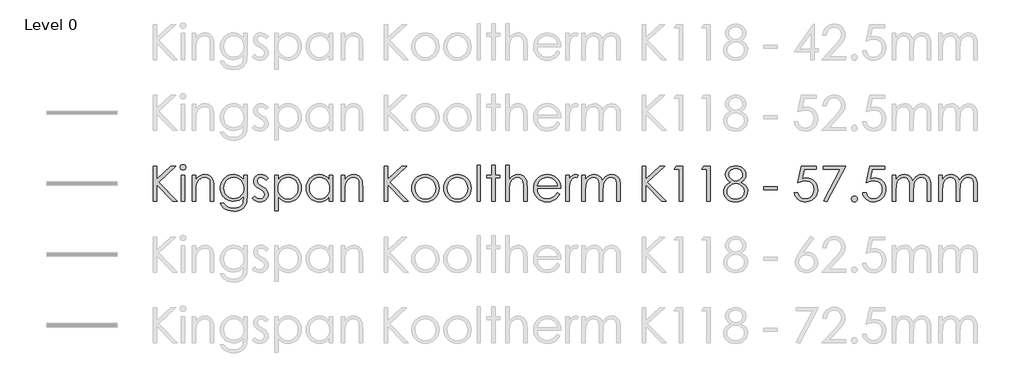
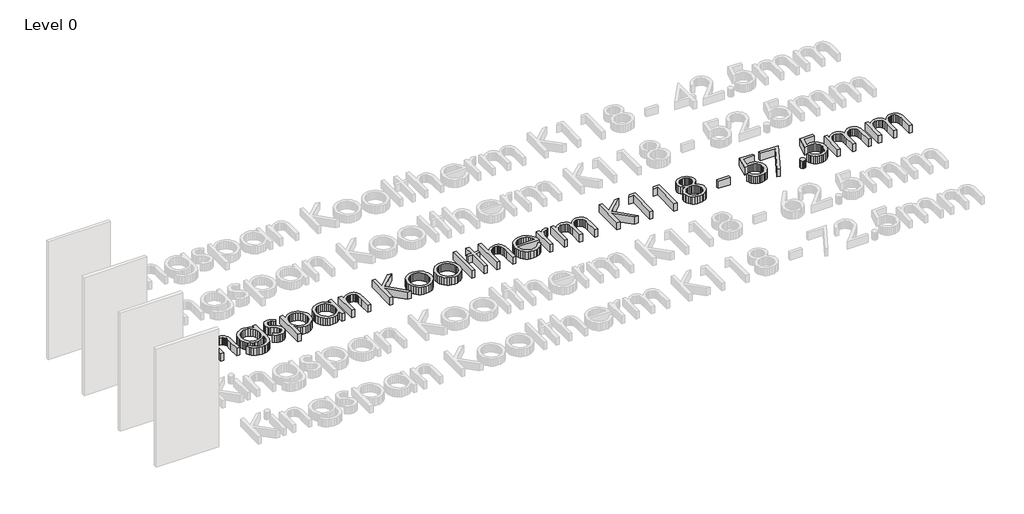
# One storey, part 5 of 8: 1 proxy.
"""IFC4 building model written with IfcOpenShell, lengths in millimetres."""

from ifc_helpers import new_model, si_unit, origin, origin_with_axes, place, context, project, spatial, polyline, outline, extrude, element, save

model = new_model("IFC4")

# Units and contexts
model_context = context("Model", 3, world=origin())
ifc_project = project(units=[si_unit("LENGTHUNIT", "METRE", prefix="MILLI")], contexts=[model_context])

# Site, building, storey
site = spatial("IfcSite", under=ifc_project)
building = spatial("IfcBuilding", under=site)
storey = spatial("IfcBuildingStorey", under=building, Name="Level 0", Elevation=0.0)

# Proxy
placement = place(None, origin())
element("IfcBuildingElementProxy", 1, Name="600mm KI_CenturyGothic", ObjectType="600mm KI_CenturyGothic", at=placement, inside=storey, context=model_context, shape_type="SweptSolid", body=[
    extrude(outline(polyline([(-3852.2663848, 2300.8965983), (-3792.944575, 2300.8965983), (-3792.944575, 2081.683973), (-3555.1938841, 2300.8965983), (-3471.6181051, 2300.8965983), (-3760.9664119, 2033.9484541), (-3441.9572002, 1707.6785001), (-3520.8984627, 1707.6785001), (-3792.944575, 1985.9039675), (-3792.944575, 1707.6785001), (-3852.2663848, 1707.6785001), (-3852.2663848, 2300.8965983)])), origin_with_axes(), (0.0, 0.0, 1.0), 150.0),
    extrude(outline(polyline([(-3348.1854852, 2330.5575033), (-3329.145347, 2327.2747208), (-3313.1176445, 2317.4263735), (-3302.226531, 2302.9821307), (-3298.5961598, 2285.911662), (-3302.226531, 2269.0729191), (-3313.1176445, 2254.7059183), (-3329.145347, 2244.857571), (-3348.1854852, 2241.5747885), (-3366.9938975, 2244.857571), (-3382.9443581, 2254.7059183), (-3393.8354717, 2269.0729191), (-3397.4658428, 2285.911662), (-3393.8354717, 2302.9821307), (-3382.9443581, 2317.4263735), (-3366.9938975, 2327.2747208), (-3348.1854852, 2330.5575033)])), origin_with_axes(), (0.0, 0.0, 1.0), 150.0),
    extrude(outline(polyline([(-3377.6919062, 2152.5920738), (-3318.3700964, 2152.5920738), (-3318.3700964, 1707.6785001), (-3377.6919062, 1707.6785001), (-3377.6919062, 2152.5920738)])), origin_with_axes(), (0.0, 0.0, 1.0), 150.0),
    extrude(outline(polyline([(-3189.8395084, 2152.5920738), (-3130.5176986, 2152.5920738), (-3130.5176986, 2073.4963274), (-3096.9946967, 2113.0055796), (-3060.0730495, 2140.696815), (-3019.7141359, 2157.0334853), (-2975.879335, 2162.4790421), (-2953.4357238, 2160.9004099), (-2932.2955704, 2156.1645135), (-2912.4588747, 2148.2713528), (-2893.9256368, 2137.2209277), (-2877.212412, 2123.4960006), (-2862.835756, 2107.5793333), (-2841.0921499, 2069.1707787), (-2833.6238199, 2044.7912914), (-2828.2892984, 2014.4448643), (-2824.0216812, 1935.8511905), (-2824.0216812, 1707.6785001), (-2883.343491, 1707.6785001), (-2883.343491, 1920.8662542), (-2883.343491, 2023.907002), (-2884.7290183, 2044.7043943), (-2889.8125035, 2062.7596977), (-2898.2849788, 2078.0729123), (-2910.1464442, 2090.644038), (-2924.7403432, 2100.4441091), (-2941.4101193, 2107.4441599), (-2980.977303, 2113.0442006), (-3005.3471351, 2110.8862539), (-3028.4038541, 2104.4124138), (-3050.1474602, 2093.6226803), (-3070.5779533, 2078.5170534), (-3088.6622225, 2060.2348518), (-3103.3671568, 2039.915394), (-3114.6927562, 2017.55868), (-3122.6390208, 1993.1647099), (-3128.5480292, 1946.0857475), (-3130.5176986, 1871.5858965), (-3130.5176986, 1707.6785001), (-3189.8395084, 1707.6785001), (-3189.8395084, 2152.5920738)])), origin_with_axes(), (0.0, 0.0, 1.0), 150.0),
    extrude(outline(polyline([(-2319.7862977, 2152.5920738), (-2260.4644879, 2152.5920738), (-2260.4644879, 1801.604699), (-2264.5196897, 1721.3503235), (-2269.588692, 1690.5500999), (-2276.6852953, 1665.9678526), (-2289.9371156, 1637.3545415), (-2307.2924139, 1612.2267729), (-2328.7511904, 1590.5845469), (-2354.3134448, 1572.4278634), (-2383.3226209, 1558.0656902), (-2415.122162, 1547.8069951), (-2449.7120682, 1541.651778), (-2487.0923395, 1539.6000389), (-2541.0458345, 1543.6166198), (-2589.206184, 1555.6663624), (-2630.260275, 1574.4940853), (-2662.8949946, 1598.8446068), (-2690.2000204, 1632.1938144), (-2715.2650299, 1678.0175952), (-2655.94322, 1678.0175952), (-2642.4355358, 1656.848476), (-2627.0933555, 1638.6048954), (-2609.9166791, 1623.2868532), (-2590.9055067, 1610.8943494), (-2569.7894914, 1601.3308318), (-2546.2982864, 1594.4997477), (-2492.1903075, 1589.0348805), (-2438.5071593, 1594.3645743), (-2415.083541, 1601.0266916), (-2393.93856, 1610.3536559), (-2359.6624492, 1634.3952097), (-2336.8567664, 1663.8823202), (-2329.3884364, 1682.5217658), (-2324.0539149, 1706.2302137), (-2319.7862977, 1768.8541165), (-2319.7862977, 1791.5632468), (-2354.757586, 1755.7809182), (-2396.6420279, 1729.3834852), (-2443.392712, 1713.1047464), (-2492.9627269, 1707.6785001), (-2522.4063889, 1709.5757553), (-2550.9521133, 1715.2675207), (-2578.5999001, 1724.7537964), (-2605.3497494, 1738.0345825), (-2630.1540674, 1754.5257366), (-2651.9652601, 1773.6431168), (-2670.7833277, 1795.3867228), (-2686.6082702, 1819.7565549), (-2699.1456025, 1846.0719183), (-2708.1008399, 1873.6521184), (-2713.4739824, 1902.4971553), (-2715.2650299, 1932.607029), (-2713.3967404, 1962.8955247), (-2707.7918722, 1992.1219437), (-2698.4504251, 2020.286286), (-2685.3723991, 2047.3885517), (-2668.9971079, 2072.5742517), (-2649.7638648, 2094.9888971), (-2627.67267, 2114.632488), (-2602.7235235, 2131.5050242), (-2575.9833294, 2145.056157), (-2548.5189922, 2154.7355376), (-2520.3305117, 2160.543166), (-2491.4178881, 2162.4790421), (-2444.5320306, 2157.5355579), (-2400.8903346, 2142.7051055), (-2359.6045177, 2116.1338782), (-2319.7862977, 2075.9680694), (-2319.7862977, 2152.5920738)]), holes=[polyline([(-2484.1571458, 2113.0442006), (-2529.0154023, 2107.0193293), (-2570.5908765, 2088.9447153), (-2606.2187212, 2060.2300242), (-2633.2340897, 2022.2849212), (-2650.2659375, 1978.0059792), (-2655.94322, 1930.2897708), (-2653.0080263, 1894.3770964), (-2644.2024452, 1861.7182387), (-2629.5264766, 1832.3131977), (-2608.9801206, 1806.1619734), (-2583.7606272, 1784.703197), (-2555.0652466, 1769.3754996), (-2522.8939786, 1760.1788811), (-2487.2468234, 1757.1133416), (-2451.3244937, 1760.154743), (-2419.1001219, 1769.2789472), (-2390.573708, 1784.4859541), (-2365.7452519, 1805.7757637), (-2345.6382095, 1832.0187128), (-2331.2760363, 1862.0851379), (-2322.6587323, 1895.975039), (-2319.7862977, 1933.6884162), (-2325.0773706, 1982.3894593), (-2340.9505892, 2025.6063246), (-2366.4983608, 2061.8327944), (-2400.8130926, 2089.5626508), (-2440.9982119, 2107.1738131), (-2484.1571458, 2113.0442006)])]), origin_with_axes(), (0.0, 0.0, 1.0), 150.0),
    extrude(outline(polyline([(-1904.5336289, 2101.3034257), (-1940.9918246, 2063.609359), (-1962.9575012, 2085.2371022), (-1984.6721416, 2100.6854902), (-2006.1357456, 2109.954523), (-2027.3483133, 2113.0442006), (-2052.181597, 2108.3710632), (-2073.2300256, 2094.3516511), (-2087.5970264, 2074.1142629), (-2092.3860267, 2050.787197), (-2088.4466878, 2029.2366958), (-2076.628671, 2008.7675817), (-2052.0657341, 1986.599145), (-2010.2006027, 1960.877579), (-1958.3326401, 1928.0111336), (-1939.8428507, 1912.1861912), (-1926.315856, 1896.7667689), (-1909.9791857, 1864.0934284), (-1904.5336289, 1827.5579908), (-1906.9474396, 1801.4115941), (-1914.1888714, 1777.3507299), (-1926.2579245, 1755.375398), (-1943.1545989, 1735.4855985), (-1963.6719892, 1718.9944443), (-1986.6031901, 1707.2150485), (-2011.9482016, 1700.147411), (-2039.7070237, 1697.7915318), (-2077.4397114, 1701.6729393), (-2113.3958344, 1713.3171617), (-2145.4512394, 1731.7972958), (-2171.4817731, 1756.1864383), (-2135.7959969, 1796.6612148), (-2114.0041146, 1775.0334717), (-2091.5749863, 1759.5850837), (-2068.5086121, 1750.3160509), (-2044.8049918, 1747.2263733), (-2013.637869, 1752.8650349), (-1987.4914724, 1769.7810198), (-1969.7644472, 1794.3439566), (-1963.8554388, 1822.9234744), (-1967.7561567, 1846.7139919), (-1979.4583106, 1867.7237995), (-2005.0253927, 1889.4287846), (-2050.2119275, 1916.2317378), (-2099.762632, 1946.8967879), (-2117.441381, 1962.0555186), (-2130.3890611, 1977.0983864), (-2146.3781427, 2009.2310334), (-2151.7078365, 2045.689229), (-2149.5305794, 2069.7356104), (-2142.9988078, 2091.6674937), (-2132.1125219, 2111.4848789), (-2116.8717217, 2129.187766), (-2098.309518, 2143.7526993), (-2077.4590218, 2154.1562231), (-2054.3202332, 2160.3983373), (-2028.8931521, 2162.4790421), (-1997.9481, 2158.6555661), (-1966.9064954, 2147.185138), (-1935.7683384, 2128.0677579), (-1904.5336289, 2101.3034257)])), origin_with_axes(), (0.0, 0.0, 1.0), 150.0),
    extrude(outline(polyline([(-1795.7769776, 2152.5920738), (-1736.4551678, 2152.5920738), (-1736.4551678, 2071.4880369), (-1700.9238754, 2111.7310876), (-1660.4490989, 2140.0788795), (-1614.9922173, 2156.8790014), (-1564.5146096, 2162.4790421), (-1520.0618732, 2158.2403906), (-1478.9305402, 2145.5244363), (-1441.1206107, 2124.331179), (-1406.6320845, 2094.6606189), (-1377.9077381, 2059.0231189), (-1357.3903478, 2019.929042), (-1345.0799137, 1977.3783884), (-1340.9764356, 1931.371158), (-1345.0412927, 1884.4708176), (-1357.235864, 1841.2491246), (-1377.5601494, 1801.706079), (-1406.014149, 1765.8416808), (-1440.2130179, 1736.0697406), (-1477.7719111, 1714.8040691), (-1518.6908288, 1702.0446661), (-1562.9697708, 1697.7915318), (-1612.6170277, 1703.256399), (-1658.0545988, 1719.6510008), (-1699.3211052, 1746.8980951), (-1736.4551678, 1784.92044), (-1736.4551678, 1549.4870072), (-1795.7769776, 1549.4870072), (-1795.7769776, 2152.5920738)]), holes=[polyline([(-1568.5311905, 2113.0442006), (-1602.5852307, 2109.7469353), (-1633.8392507, 2099.8551393), (-1662.2932503, 2083.3688128), (-1687.9472295, 2060.2879556), (-1709.1694525, 2032.3022353), (-1724.3281832, 2001.1013192), (-1733.4234216, 1966.6852074), (-1736.4551678, 1929.0538998), (-1731.048232, 1880.1983728), (-1714.8274246, 1836.5180558), (-1688.5265441, 1799.6736505), (-1652.8793888, 1771.3258586), (-1611.4390881, 1753.2512446), (-1567.7587711, 1747.2263733), (-1525.0632888, 1753.2898656), (-1485.0326535, 1771.4803424), (-1450.2544701, 1800.5812433), (-1423.3163435, 1839.3760076), (-1406.05277, 1884.0411593), (-1400.2982454, 1930.7532225), (-1405.9948385, 1977.6970114), (-1423.0846177, 2022.1304373), (-1449.8103289, 2060.4810605), (-1484.414718, 2089.1764411), (-1524.7157001, 2107.0772607), (-1568.5311905, 2113.0442006)])]), origin_with_axes(), (0.0, 0.0, 1.0), 150.0),
    extrude(outline(polyline([(-807.0801472, 2152.5920738), (-807.0801472, 1707.6785001), (-866.401957, 1707.6785001), (-866.401957, 1783.5300851), (-903.4780882, 1745.6815345), (-944.8797679, 1718.9558233), (-990.4525125, 1703.0826047), (-1040.0418379, 1697.7915318), (-1084.3159523, 1702.0446661), (-1125.2203871, 1714.8040691), (-1162.7551422, 1736.0697406), (-1196.9202178, 1765.8416808), (-1225.340424, 1801.706079), (-1245.6405713, 1841.2491246), (-1257.8206597, 1884.4708176), (-1261.8806892, 1931.371158), (-1257.7820388, 1977.3783884), (-1245.4860875, 2019.929042), (-1224.9928353, 2059.0231189), (-1196.3022822, 2094.6606189), (-1161.8475494, 2124.331179), (-1124.061758, 2145.5244363), (-1082.9449079, 2158.2403906), (-1038.4969991, 2162.4790421), (-987.7490446, 2156.8790014), (-942.0990581, 2140.0788795), (-921.2051134, 2127.3918909), (-901.6242816, 2111.7310876), (-866.401957, 2071.4880369), (-866.401957, 2152.5920738), (-807.0801472, 2152.5920738)]), holes=[polyline([(-1034.3259343, 2113.0442006), (-1078.1414247, 2107.0772607), (-1118.4424068, 2089.1764411), (-1153.0467959, 2060.4810605), (-1179.7725071, 2022.1304373), (-1196.8622863, 1977.6970114), (-1202.5588794, 1930.7532225), (-1196.8043548, 1884.0411593), (-1179.5407813, 1839.3760076), (-1152.6026548, 1800.5812433), (-1117.8244713, 1771.4803424), (-1077.6779731, 1753.2898656), (-1034.6349021, 1747.2263733), (-991.0125165, 1753.2512446), (-949.7460102, 1771.3258586), (-914.2726493, 1799.6736505), (-888.0297002, 1836.5180558), (-871.8088928, 1880.1983728), (-866.401957, 1929.0538998), (-869.4337032, 1966.6852074), (-878.5289416, 2001.1013192), (-893.6876723, 2032.3022353), (-914.9098953, 2060.2879556), (-940.5638746, 2083.3688128), (-969.0178742, 2099.8551393), (-1000.2718941, 2109.7469353), (-1034.3259343, 2113.0442006)])]), origin_with_axes(), (0.0, 0.0, 1.0), 150.0),
    extrude(outline(polyline([(-668.662591, 2152.5920738), (-609.3407811, 2152.5920738), (-609.3407811, 2073.4963274), (-575.8177792, 2113.0055796), (-538.896132, 2140.696815), (-498.5372184, 2157.0334853), (-454.7024175, 2162.4790421), (-432.2588064, 2160.9004099), (-411.1186529, 2156.1645135), (-391.2819572, 2148.2713528), (-372.7487193, 2137.2209277), (-356.0354946, 2123.4960006), (-341.6588385, 2107.5793333), (-319.9152324, 2069.1707787), (-312.4469024, 2044.7912914), (-307.1123809, 2014.4448643), (-302.8447637, 1935.8511905), (-302.8447637, 1707.6785001), (-362.1665735, 1707.6785001), (-362.1665735, 1920.8662542), (-362.1665735, 2023.907002), (-363.5521008, 2044.7043943), (-368.635586, 2062.7596977), (-377.1080613, 2078.0729123), (-388.9695267, 2090.644038), (-403.5634257, 2100.4441091), (-420.2332018, 2107.4441599), (-459.8003855, 2113.0442006), (-484.1702176, 2110.8862539), (-507.2269366, 2104.4124138), (-528.9705427, 2093.6226803), (-549.4010358, 2078.5170534), (-567.485305, 2060.2348518), (-582.1902393, 2039.915394), (-593.5158387, 2017.55868), (-601.4621033, 1993.1647099), (-607.3711117, 1946.0857475), (-609.3407811, 1871.5858965), (-609.3407811, 1707.6785001), (-668.662591, 1707.6785001), (-668.662591, 2152.5920738)])), origin_with_axes(), (0.0, 0.0, 1.0), 150.0),
    extrude(outline(polyline([(62.9730635, 2300.8965983), (122.2948734, 2300.8965983), (122.2948734, 2081.683973), (360.0455643, 2300.8965983), (443.6213432, 2300.8965983), (154.2730365, 2033.9484541), (473.2822481, 1707.6785001), (394.3409856, 1707.6785001), (122.2948734, 1985.9039675), (122.2948734, 1707.6785001), (62.9730635, 1707.6785001), (62.9730635, 2300.8965983)])), origin_with_axes(), (0.0, 0.0, 1.0), 150.0),
    extrude(outline(polyline([(760.1588128, 2162.4790421), (809.4681362, 2157.8541809), (854.3553585, 2143.9795975), (894.8204798, 2120.8552917), (930.8635, 2088.4812637), (957.7630055, 2053.2492839), (976.9769381, 2014.908316), (988.5052976, 1973.45836), (992.3480841, 1928.8994159), (988.283227, 1884.0846079), (976.0886558, 1842.1760279), (955.7643703, 1803.1736759), (927.3103707, 1767.0775519), (892.4742558, 1736.7649181), (853.0036246, 1715.1130368), (808.8984769, 1702.1219081), (760.1588128, 1697.7915318), (711.2839754, 1702.1219081), (667.0822753, 1715.1130368), (627.5537126, 1736.7649181), (592.6982872, 1767.0775519), (564.2442876, 1803.1736759), (543.9200022, 1842.1760279), (531.7254309, 1884.0846079), (527.6605738, 1928.8994159), (531.5033603, 1973.2652551), (543.0317198, 2014.5993482), (562.2456524, 2052.9016951), (589.145158, 2088.1722959), (625.2074886, 2120.6814974), (665.7305413, 2143.9023555), (710.7143161, 2157.8348705), (760.1588128, 2162.4790421)]), holes=[polyline([(760.004329, 2113.0442006), (725.7282181, 2109.6696933), (693.9624704, 2099.5461716), (664.7070856, 2082.6736353), (637.962064, 2059.0520846), (615.6584538, 2030.6415336), (599.7273037, 1999.4019965), (590.1686137, 1965.3334734), (586.9823836, 1928.4359643), (592.7948396, 1880.7004454), (610.2322075, 1836.3635719), (637.5758543, 1798.5729529), (673.1071466, 1770.4761972), (714.6439998, 1753.0388293), (760.004329, 1747.2263733), (805.3646581, 1753.0388293), (846.9015113, 1770.4761972), (882.4328037, 1798.5729529), (909.7764504, 1836.3635719), (927.2138183, 1880.7004454), (933.0262743, 1928.4359643), (929.8255614, 1965.3334734), (920.2234227, 1999.4019965), (904.2198583, 2030.6415336), (881.8148681, 2059.0520846), (854.9974321, 2082.6736353), (825.7565303, 2099.5461716), (794.0921625, 2109.6696933), (760.004329, 2113.0442006)])]), origin_with_axes(), (0.0, 0.0, 1.0), 150.0),
    extrude(outline(polyline([(1303.9420695, 2162.4790421), (1353.2513929, 2157.8541809), (1398.1386152, 2143.9795975), (1438.6037365, 2120.8552917), (1474.6467567, 2088.4812637), (1501.5462622, 2053.2492839), (1520.7601948, 2014.908316), (1532.2885543, 1973.45836), (1536.1313408, 1928.8994159), (1532.0664837, 1884.0846079), (1519.8719125, 1842.1760279), (1499.547627, 1803.1736759), (1471.0936274, 1767.0775519), (1436.2575126, 1736.7649181), (1396.7868813, 1715.1130368), (1352.6817336, 1702.1219081), (1303.9420695, 1697.7915318), (1255.0672321, 1702.1219081), (1210.865532, 1715.1130368), (1171.3369693, 1736.7649181), (1136.4815439, 1767.0775519), (1108.0275443, 1803.1736759), (1087.7032589, 1842.1760279), (1075.5086876, 1884.0846079), (1071.4438305, 1928.8994159), (1075.286617, 1973.2652551), (1086.8149766, 2014.5993482), (1106.0289091, 2052.9016951), (1132.9284147, 2088.1722959), (1168.9907453, 2120.6814974), (1209.5137981, 2143.9023555), (1254.4975728, 2157.8348705), (1303.9420695, 2162.4790421)]), holes=[polyline([(1303.7875857, 2113.0442006), (1269.5114748, 2109.6696933), (1237.7457271, 2099.5461716), (1208.4903423, 2082.6736353), (1181.7453207, 2059.0520846), (1159.4417105, 2030.6415336), (1143.5105604, 1999.4019965), (1133.9518704, 1965.3334734), (1130.7656404, 1928.4359643), (1136.5780963, 1880.7004454), (1154.0154643, 1836.3635719), (1181.359111, 1798.5729529), (1216.8904033, 1770.4761972), (1258.4272565, 1753.0388293), (1303.7875857, 1747.2263733), (1349.1479149, 1753.0388293), (1390.684768, 1770.4761972), (1426.2160604, 1798.5729529), (1453.5597071, 1836.3635719), (1470.997075, 1880.7004454), (1476.809531, 1928.4359643), (1473.6088181, 1965.3334734), (1464.0066795, 1999.4019965), (1448.003115, 2030.6415336), (1425.5981249, 2059.0520846), (1398.7806889, 2082.6736353), (1369.539787, 2099.5461716), (1337.8754193, 2109.6696933), (1303.7875857, 2113.0442006)])]), origin_with_axes(), (0.0, 0.0, 1.0), 150.0),
    extrude(outline(polyline([(1635.0010238, 2320.6705349), (1694.3228337, 2320.6705349), (1694.3228337, 1707.6785001), (1635.0010238, 1707.6785001), (1635.0010238, 2320.6705349)])), origin_with_axes(), (0.0, 0.0, 1.0), 150.0),
    extrude(outline(polyline([(1882.1752314, 2320.6705349), (1941.4970413, 2320.6705349), (1941.4970413, 2152.5920738), (2020.5927877, 2152.5920738), (2020.5927877, 2103.1572323), (1941.4970413, 2103.1572323), (1941.4970413, 1707.6785001), (1882.1752314, 1707.6785001), (1882.1752314, 2103.1572323), (1803.079485, 2103.1572323), (1803.079485, 2152.5920738), (1882.1752314, 2152.5920738), (1882.1752314, 2320.6705349)])), origin_with_axes(), (0.0, 0.0, 1.0), 150.0),
    extrude(outline(polyline([(2119.4624707, 2320.6705349), (2178.7842806, 2320.6705349), (2178.7842806, 2071.9514886), (2212.5583188, 2111.6538456), (2249.6151394, 2139.9243956), (2289.9161216, 2156.8403805), (2333.4226442, 2162.4790421), (2355.8662553, 2160.9004099), (2377.0064088, 2156.1645135), (2396.8431044, 2148.2713528), (2415.3763424, 2137.2209277), (2432.0895671, 2123.5104834), (2446.4662232, 2107.6372648), (2468.2098293, 2069.4025045), (2475.6781593, 2045.0954316), (2481.0126808, 2014.7345216), (2485.280298, 1935.8511905), (2485.280298, 1707.6785001), (2425.9584882, 1707.6785001), (2425.9584882, 1920.8662542), (2424.5681332, 1985.247411), (2420.3970685, 2023.907002), (2406.879729, 2062.7596977), (2397.1665551, 2078.0729123), (2385.4837117, 2090.644038), (2371.840854, 2100.4441091), (2356.2476374, 2107.4441599), (2319.2101273, 2113.0442006), (2296.3416854, 2110.8862539), (2274.6994594, 2104.4124138), (2254.2834492, 2093.6226803), (2235.0936547, 2078.5170534), (2218.1052556, 2060.2348518), (2204.2934312, 2039.915394), (2193.6581816, 2017.55868), (2186.1995068, 1993.1647099), (2180.6380871, 1946.3174733), (2178.7842806, 1871.5858965), (2178.7842806, 1707.6785001), (2119.4624707, 1707.6785001), (2119.4624707, 2320.6705349)])), origin_with_axes(), (0.0, 0.0, 1.0), 150.0),
    extrude(outline(polyline([(2991.0605203, 1855.9830247), (3038.950523, 1830.8021523), (3013.3255094, 1788.9177104), (2984.0315038, 1755.9547125), (2950.952643, 1730.8703926), (2913.9730643, 1712.6219843), (2872.4941426, 1701.4991449), (2825.9172528, 1697.7915318), (2774.4258447, 1702.2232881), (2728.8627554, 1715.518557), (2689.227985, 1737.6773385), (2655.5215335, 1768.6996326), (2628.6220279, 1805.3026569), (2609.4080954, 1844.2036288), (2597.8797358, 1885.4025485), (2594.0369493, 1928.8994159), (2597.3197318, 1969.7797126), (2607.1680791, 2008.381372), (2623.5819913, 2044.7043943), (2646.5614684, 2078.7487793), (2682.7493173, 2115.3807692), (2724.5758277, 2141.5464764), (2772.0409998, 2157.2459007), (2825.1448334, 2162.4790421), (2879.7935059, 2157.1107273), (2928.6490329, 2141.0057828), (2971.7114143, 2114.1642087), (3008.9806503, 2076.5860049), (3030.4539096, 2044.414737), (3045.9022976, 2008.458614), (3055.3258143, 1968.7176359), (3058.7244596, 1925.1918028), (2653.3587591, 1925.1918028), (2657.095338, 1887.9370497), (2666.6057518, 1854.1871496), (2681.8900007, 1823.9421025), (2702.9480845, 1797.2019084), (2728.3124066, 1775.3376118), (2756.5153699, 1759.7202571), (2787.5569744, 1750.3498443), (2821.4372203, 1747.2263733), (2854.9602222, 1750.238809), (2887.5563208, 1759.2761159), (2917.2944677, 1773.3148385), (2942.2436143, 1791.331521), (2965.725164, 1817.4972281), (2991.0605203, 1855.9830247)]), holes=[polyline([(2999.4026498, 1974.6266443), (2984.9777175, 2017.1483322), (2965.1844704, 2050.1692615), (2939.0766947, 2075.6977226), (2905.7081767, 2095.742006), (2867.7630738, 2108.7186519), (2827.9255433, 2113.0442006), (2795.503239, 2110.3310774), (2765.4368139, 2102.191708), (2737.726268, 2088.6260923), (2712.3716012, 2069.6342304), (2695.8321708, 2051.820308), (2681.4362043, 2030.0477362), (2669.1837016, 2004.316515), (2659.0746627, 1974.6266443), (2999.4026498, 1974.6266443)])]), origin_with_axes(), (0.0, 0.0, 1.0), 150.0),
    extrude(outline(polyline([(3137.820206, 2152.5920738), (3197.1420159, 2152.5920738), (3197.1420159, 2088.1722959), (3222.6897875, 2121.2125357), (3249.589293, 2144.3271862), (3277.7632906, 2157.9410781), (3307.1345382, 2162.4790421), (3330.4616041, 2158.694187), (3355.3335087, 2147.3396219), (3325.8270877, 2105.3200066), (3297.2475699, 2113.0442006), (3270.8308265, 2107.0965712), (3245.3409863, 2089.2536831), (3223.2884125, 2058.8976007), (3207.183468, 2015.4103886), (3199.6523789, 1957.2858288), (3197.1420159, 1859.8451217), (3197.1420159, 1707.6785001), (3137.820206, 1707.6785001), (3137.820206, 2152.5920738)])), origin_with_axes(), (0.0, 0.0, 1.0), 150.0),
    extrude(outline(polyline([(3414.6553185, 2152.5920738), (3473.9771284, 2152.5920738), (3473.9771284, 2076.4315211), (3503.5607913, 2112.9283377), (3533.9168737, 2138.0705891), (3577.3268439, 2156.3769288), (3622.8995884, 2162.4790421), (3653.7384329, 2159.331433), (3682.9165757, 2149.8886059), (3708.6767627, 2135.2126373), (3729.2617397, 2116.365604), (3746.0425511, 2090.9336953), (3760.3902414, 2056.5031006), (3775.16759, 2080.9018983), (3791.6925376, 2102.191708), (3809.965084, 2120.3725296), (3829.9852293, 2135.4443631), (3851.2798666, 2147.2720352), (3873.375889, 2155.7203723), (3896.2732965, 2160.7893747), (3919.9720892, 2162.4790421), (3962.3006723, 2156.6665861), (3981.4952943, 2149.4010161), (3999.3768034, 2139.2292182), (4015.4914031, 2126.46016), (4029.385297, 2111.4028093), (4050.5109676, 2074.4232306), (4057.8103309, 2051.0478886), (4063.0241619, 2022.4780261), (4067.1952266, 1949.7547397), (4067.1952266, 1707.6785001), (4007.8734168, 1707.6785001), (4007.8734168, 1953.3078689), (4005.4209852, 2014.4255538), (3998.0636904, 2052.8727294), (3984.7587663, 2077.3391139), (3964.4634466, 2096.5144254), (3938.3942919, 2108.9117568), (3907.7678627, 2113.0442006), (3888.1194443, 2111.4945341), (3869.3399976, 2106.8455349), (3834.3880198, 2088.2495379), (3805.6540182, 2059.3031209), (3785.8800816, 2022.0531954), (3779.1889985, 1997.8957787), (3774.4096535, 1966.8252084), (3770.5861775, 1883.9446069), (3770.5861775, 1707.6785001), (3711.2643677, 1707.6785001), (3711.2643677, 1938.0139648), (3708.850557, 2006.469634), (3701.6091252, 2048.7016647), (3688.3621325, 2074.9446137), (3667.9316394, 2095.4330383), (3641.6114484, 2108.64141), (3610.6953619, 2113.0442006), (3573.7544042, 2107.0000188), (3539.2465676, 2088.8674734), (3510.2808401, 2060.500371), (3489.9662099, 2023.7525181), (3477.9743988, 1971.9231764), (3473.9771284, 1898.3116077), (3473.9771284, 1707.6785001), (3414.6553185, 1707.6785001), (3414.6553185, 2152.5920738)])), origin_with_axes(), (0.0, 0.0, 1.0), 150.0),
    extrude(outline(polyline([(4433.0130538, 2300.8965983), (4492.3348637, 2300.8965983), (4492.3348637, 2081.683973), (4730.0855546, 2300.8965983), (4813.6613335, 2300.8965983), (4524.3130268, 2033.9484541), (4843.3222385, 1707.6785001), (4764.3809759, 1707.6785001), (4492.3348637, 1985.9039675), (4492.3348637, 1707.6785001), (4433.0130538, 1707.6785001), (4433.0130538, 2300.8965983)])), origin_with_axes(), (0.0, 0.0, 1.0), 150.0),
    extrude(outline(polyline([(5010.6282802, 2300.8965983), (5125.1008351, 2300.8965983), (5125.1008351, 1707.6785001), (5065.7790253, 1707.6785001), (5065.7790253, 2251.4617568), (4976.7963106, 2251.4617568), (5010.6282802, 2300.8965983)])), origin_with_axes(), (0.0, 0.0, 1.0), 150.0),
    extrude(outline(polyline([(5475.3157905, 2300.8965983), (5589.7883454, 2300.8965983), (5589.7883454, 1707.6785001), (5530.4665356, 1707.6785001), (5530.4665356, 2251.4617568), (5441.4838208, 2251.4617568), (5475.3157905, 2300.8965983)])), origin_with_axes(), (0.0, 0.0, 1.0), 150.0),
    extrude(outline(polyline([(6107.7727942, 2031.7856798), (6159.8724826, 2000.3868313), (6179.6946955, 1983.1522234), (6195.365154, 1964.8941599), (6207.2604128, 1945.4774673), (6215.7570261, 1924.7669721), (6220.8549942, 1902.7626745), (6222.5543169, 1879.4645744), (6219.734986, 1846.7815786), (6211.2769936, 1816.0875627), (6197.1803396, 1787.3825268), (6177.445024, 1760.6664709), (6146.7510081, 1733.158685), (6110.1286734, 1713.5102666), (6067.5780197, 1701.7212155), (6019.0990472, 1697.7915318), (5972.4352603, 1701.243281), (5931.7770342, 1711.5985286), (5897.1243689, 1728.8572745), (5868.4772645, 1753.0195188), (5846.0384809, 1781.3335174), (5830.0107784, 1811.0475261), (5820.3941569, 1842.161545), (5817.1886164, 1874.6755741), (5818.9024219, 1898.4033325), (5824.0438386, 1920.9241856), (5832.6128663, 1942.2381334), (5844.609505, 1962.3451759), (5860.5068618, 1981.3128997), (5880.7780434, 1999.2088917), (5905.4230498, 2016.0331517), (5934.4418811, 2031.7856798), (5896.0719475, 2056.7348264), (5868.7089903, 2087.0909088), (5852.3143886, 2121.3477091), (5846.8495213, 2157.9990096), (5852.6426668, 2195.7123867), (5870.0221033, 2232.5374816), (5897.6360968, 2265.0563382), (5934.1329134, 2289.8510009), (5976.7318432, 2305.5504252), (6022.6521765, 2310.7835666), (6067.3945701, 2305.5118042), (6108.6224555, 2289.6965171), (6143.8254696, 2264.8246124), (6170.4932494, 2232.3829977), (6187.2933713, 2195.2489351), (6192.8934119, 2156.2996869), (6187.5830286, 2118.7601041), (6171.6518785, 2085.54607), (6145.0613407, 2056.5803425), (6107.7727942, 2031.7856798)]), holes=[polyline([(6022.9611442, 2004.2875492), (5993.0926516, 2001.7771862), (5965.7441773, 1994.246097), (5940.9157212, 1981.6942818), (5918.6072834, 1964.1217405), (5900.1899084, 1943.2181405), (5887.0346405, 1920.6731493), (5879.1414798, 1896.4867669), (5876.5104262, 1870.6589932), (5881.0097692, 1838.5456567), (5894.5077982, 1808.3247478), (5916.0776099, 1782.3907665), (5944.7923011, 1763.1382129), (5979.6670369, 1751.2043332), (6019.7169827, 1747.2263733), (6050.9372093, 1749.6450116), (6078.7877563, 1756.9009263), (6103.2686236, 1768.9941175), (6124.3798113, 1785.9245852), (6141.3778657, 1806.0895591), (6153.5193331, 1827.886269), (6160.8042135, 1851.3147149), (6163.232507, 1876.3748968), (6160.6642125, 1900.7061079), (6152.959329, 1923.646964), (6140.1178565, 1945.1974652), (6122.139795, 1965.3576115), (6100.5313623, 1982.3894593), (6076.7987763, 1994.5550648), (6050.9420369, 2001.8544281), (6022.9611442, 2004.2875492)]), polyline([(6019.7169827, 2261.3487251), (5996.2112949, 2259.4900909), (5974.8201052, 2253.9141884), (5955.5434136, 2244.6210175), (5938.3812201, 2231.6105783), (5924.2893937, 2216.0221893), (5914.2238034, 2198.9951692), (5908.1844492, 2180.5295179), (5906.1713311, 2160.6252355), (5908.3389331, 2140.7161255), (5914.8417389, 2121.7725398), (5925.6797486, 2103.7944783), (5940.8529621, 2086.781941), (5958.9130932, 2072.3183878), (5978.4118554, 2061.9872783), (5999.3492487, 2055.7886126), (6021.7252732, 2053.7223907), (6050.4399643, 2057.4686248), (6077.5711957, 2068.7073271), (6101.0334349, 2086.4536628), (6118.7411497, 2109.7227972), (6129.863989, 2135.7726414), (6133.5716021, 2161.8611066), (6131.7467613, 2180.0322729), (6126.2722388, 2197.4696408), (6117.1480347, 2214.1732103), (6104.3741488, 2230.1429814), (6088.134031, 2243.7954943), (6068.6111307, 2253.5472892), (6045.8054479, 2259.3983661), (6019.7169827, 2261.3487251)])]), origin_with_axes(), (0.0, 0.0, 1.0), 150.0),
    extrude(outline(polyline([(6499.3894294, 1954.8527077), (6726.7897004, 1954.8527077), (6726.7897004, 1905.4178662), (6499.3894294, 1905.4178662), (6499.3894294, 1954.8527077)])), origin_with_axes(), (0.0, 0.0, 1.0), 150.0),
    extrude(outline(polyline([(7389.2165767, 2300.8965983), (7389.2165767, 2251.4617568), (7181.8992101, 2251.4617568), (7147.4493049, 2090.4895541), (7185.0275087, 2099.9903127), (7218.6663735, 2103.1572323), (7258.2528677, 2099.7344488), (7294.2089907, 2089.4660984), (7326.5347425, 2072.3521811), (7355.2301232, 2048.3926969), (7378.7502939, 2019.0842083), (7395.5504158, 1985.923278), (7405.6304889, 1948.909906), (7408.9905133, 1908.0440921), (7407.2670525, 1879.0783647), (7402.0966702, 1851.3485083), (7393.4793663, 1824.8545229), (7381.4151408, 1799.5964086), (7366.410894, 1776.3948609), (7348.973526, 1756.0705754), (7329.103037, 1738.6235523), (7306.7994269, 1724.0537914), (7282.3668358, 1712.5640528), (7256.1094038, 1704.3570967), (7228.0271311, 1699.432923), (7198.1200175, 1697.7915318), (7162.7866576, 1700.5481035), (7130.3209047, 1708.8178187), (7100.7227589, 1722.6006774), (7073.9922201, 1741.8966795), (7051.2396412, 1765.5665064), (7033.575375, 1792.4708396), (7020.9994217, 1822.609679), (7013.5117812, 1855.9830247), (7072.833591, 1855.9830247), (7082.4115915, 1823.2517526), (7096.9330762, 1797.3563923), (7116.7649443, 1777.0417621), (7142.2740949, 1761.0526806), (7171.2977538, 1750.6829501), (7201.6731467, 1747.2263733), (7230.9623248, 1750.1519118), (7258.1176943, 1758.9285272), (7283.1392552, 1773.5562196), (7306.0270075, 1794.0349889), (7325.1202495, 1818.9068935), (7338.7582795, 1846.7139919), (7346.9410975, 1877.456284), (7349.6687035, 1911.1337697), (7347.2066167, 1941.3208854), (7339.8203562, 1968.5438415), (7327.509922, 1992.8026383), (7310.2753142, 2014.0972756), (7288.9179178, 2031.4332635), (7264.239118, 2043.816112), (7236.2389148, 2051.245821), (7204.9173082, 2053.7223907), (7176.2122723, 2051.8685842), (7144.6299741, 2046.3071645), (7072.833591, 2024.0614858), (7132.1554008, 2300.8965983), (7389.2165767, 2300.8965983)])), origin_with_axes(), (0.0, 0.0, 1.0), 150.0),
    extrude(outline(polyline([(7507.8601964, 2300.8965983), (7883.5649919, 2300.8965983), (7567.1820062, 1697.7915318), (7513.2671321, 1720.1916944), (7791.9560512, 2251.4617568), (7507.8601964, 2251.4617568), (7507.8601964, 2300.8965983)])), origin_with_axes(), (0.0, 0.0, 1.0), 150.0),
    extrude(outline(polyline([(8031.8695165, 1796.6612148), (8050.8903442, 1793.0694646), (8066.8601152, 1782.294214), (8077.6932973, 1766.3437534), (8081.304358, 1747.2263733), (8077.6932973, 1728.3020981), (8066.8601152, 1712.3130165), (8050.8903442, 1701.421903), (8031.8695165, 1697.7915318), (8012.8486888, 1701.421903), (7996.8789177, 1712.3130165), (7986.0457356, 1728.3020981), (7982.4346749, 1747.2263733), (7986.0457356, 1766.3437534), (7996.8789177, 1782.294214), (8012.8486888, 1793.0694646), (8031.8695165, 1796.6612148)])), origin_with_axes(), (0.0, 0.0, 1.0), 150.0),
    extrude(outline(polyline([(8545.9918683, 2300.8965983), (8545.9918683, 2251.4617568), (8338.6745016, 2251.4617568), (8304.2245965, 2090.4895541), (8341.8028002, 2099.9903127), (8375.441665, 2103.1572323), (8415.0281592, 2099.7344488), (8450.9842822, 2089.4660984), (8483.3100341, 2072.3521811), (8512.0054147, 2048.3926969), (8535.5255854, 2019.0842083), (8552.3257073, 1985.923278), (8562.4057805, 1948.909906), (8565.7658049, 1908.0440921), (8564.0423441, 1879.0783647), (8558.8719617, 1851.3485083), (8550.2546578, 1824.8545229), (8538.1904323, 1799.5964086), (8523.1861855, 1776.3948609), (8505.7488176, 1756.0705754), (8485.8783286, 1738.6235523), (8463.5747184, 1724.0537914), (8439.1421273, 1712.5640528), (8412.8846954, 1704.3570967), (8384.8024226, 1699.432923), (8354.895309, 1697.7915318), (8319.5619491, 1700.5481035), (8287.0961963, 1708.8178187), (8257.4980505, 1722.6006774), (8230.7675116, 1741.8966795), (8208.0149327, 1765.5665064), (8190.3506666, 1792.4708396), (8177.7747133, 1822.609679), (8170.2870727, 1855.9830247), (8229.6088825, 1855.9830247), (8239.1868831, 1823.2517526), (8253.7083678, 1797.3563923), (8273.5402358, 1777.0417621), (8299.0493865, 1761.0526806), (8328.0730454, 1750.6829501), (8358.4484383, 1747.2263733), (8387.7376163, 1750.1519118), (8414.8929858, 1758.9285272), (8439.9145467, 1773.5562196), (8462.802299, 1794.0349889), (8481.895541, 1818.9068935), (8495.533571, 1846.7139919), (8503.716389, 1877.456284), (8506.4439951, 1911.1337697), (8503.9819082, 1941.3208854), (8496.5956477, 1968.5438415), (8484.2852135, 1992.8026383), (8467.0506057, 2014.0972756), (8445.6932093, 2031.4332635), (8421.0144096, 2043.816112), (8393.0142063, 2051.245821), (8361.6925997, 2053.7223907), (8332.9875638, 2051.8685842), (8301.4052657, 2046.3071645), (8229.6088825, 2024.0614858), (8288.9306924, 2300.8965983), (8545.9918683, 2300.8965983)])), origin_with_axes(), (0.0, 0.0, 1.0), 150.0),
    extrude(outline(polyline([(8674.5224562, 2152.5920738), (8733.844266, 2152.5920738), (8733.844266, 2076.4315211), (8763.427929, 2112.9283377), (8793.7840114, 2138.0705891), (8837.1939816, 2156.3769288), (8882.7667261, 2162.4790421), (8913.6055706, 2159.331433), (8942.7837134, 2149.8886059), (8968.5439003, 2135.2126373), (8989.1288773, 2116.365604), (9005.9096888, 2090.9336953), (9020.2573791, 2056.5031006), (9035.0347277, 2080.9018983), (9051.5596752, 2102.191708), (9069.8322216, 2120.3725296), (9089.8523669, 2135.4443631), (9111.1470042, 2147.2720352), (9133.2430266, 2155.7203723), (9156.1404342, 2160.7893747), (9179.8392269, 2162.4790421), (9222.1678099, 2156.6665861), (9241.362432, 2149.4010161), (9259.2439411, 2139.2292182), (9275.3585408, 2126.46016), (9289.2524347, 2111.4028093), (9310.3781053, 2074.4232306), (9317.6774686, 2051.0478886), (9322.8912995, 2022.4780261), (9327.0623643, 1949.7547397), (9327.0623643, 1707.6785001), (9267.7405545, 1707.6785001), (9267.7405545, 1953.3078689), (9265.2881229, 2014.4255538), (9257.9308281, 2052.8727294), (9244.6259039, 2077.3391139), (9224.3305842, 2096.5144254), (9198.2614295, 2108.9117568), (9167.6350004, 2113.0442006), (9147.9865819, 2111.4945341), (9129.2071353, 2106.8455349), (9094.2551575, 2088.2495379), (9065.5211559, 2059.3031209), (9045.7472193, 2022.0531954), (9039.0561362, 1997.8957787), (9034.2767912, 1966.8252084), (9030.4533152, 1883.9446069), (9030.4533152, 1707.6785001), (8971.1315053, 1707.6785001), (8971.1315053, 1938.0139648), (8968.7176947, 2006.469634), (8961.4762628, 2048.7016647), (8948.2292702, 2074.9446137), (8927.7987771, 2095.4330383), (8901.4785861, 2108.64141), (8870.5624996, 2113.0442006), (8833.6215419, 2107.0000188), (8799.1137052, 2088.8674734), (8770.1479778, 2060.500371), (8749.8333476, 2023.7525181), (8737.8415364, 1971.9231764), (8733.844266, 1898.3116077), (8733.844266, 1707.6785001), (8674.5224562, 1707.6785001), (8674.5224562, 2152.5920738)])), origin_with_axes(), (0.0, 0.0, 1.0), 150.0),
    extrude(outline(polyline([(9465.4799205, 2152.5920738), (9524.8017304, 2152.5920738), (9524.8017304, 2076.4315211), (9554.3853933, 2112.9283377), (9584.7414757, 2138.0705891), (9628.1514459, 2156.3769288), (9673.7241904, 2162.4790421), (9704.5630349, 2159.331433), (9733.7411777, 2149.8886059), (9759.5013647, 2135.2126373), (9780.0863416, 2116.365604), (9796.8671531, 2090.9336953), (9811.2148434, 2056.5031006), (9825.992192, 2080.9018983), (9842.5171395, 2102.191708), (9860.7896859, 2120.3725296), (9880.8098312, 2135.4443631), (9902.1044685, 2147.2720352), (9924.200491, 2155.7203723), (9947.0978985, 2160.7893747), (9970.7966912, 2162.4790421), (10013.1252742, 2156.6665861), (10032.3198963, 2149.4010161), (10050.2014054, 2139.2292182), (10066.3160051, 2126.46016), (10080.209899, 2111.4028093), (10101.3355696, 2074.4232306), (10108.6349329, 2051.0478886), (10113.8487638, 2022.4780261), (10118.0198286, 1949.7547397), (10118.0198286, 1707.6785001), (10058.6980188, 1707.6785001), (10058.6980188, 1953.3078689), (10056.2455872, 2014.4255538), (10048.8882924, 2052.8727294), (10035.5833683, 2077.3391139), (10015.2880486, 2096.5144254), (9989.2188938, 2108.9117568), (9958.5924647, 2113.0442006), (9938.9440462, 2111.4945341), (9920.1645996, 2106.8455349), (9885.2126218, 2088.2495379), (9856.4786202, 2059.3031209), (9836.7046836, 2022.0531954), (9830.0136005, 1997.8957787), (9825.2342555, 1966.8252084), (9821.4107795, 1883.9446069), (9821.4107795, 1707.6785001), (9762.0889696, 1707.6785001), (9762.0889696, 1938.0139648), (9759.675159, 2006.469634), (9752.4337272, 2048.7016647), (9739.1867345, 2074.9446137), (9718.7562414, 2095.4330383), (9692.4360504, 2108.64141), (9661.5199639, 2113.0442006), (9624.5790062, 2107.0000188), (9590.0711695, 2088.8674734), (9561.1054421, 2060.500371), (9540.7908119, 2023.7525181), (9528.7990007, 1971.9231764), (9524.8017304, 1898.3116077), (9524.8017304, 1707.6785001), (9465.4799205, 1707.6785001), (9465.4799205, 2152.5920738)])), origin_with_axes(), (0.0, 0.0, 1.0), 150.0),
])

save(model, "model.ifc")
